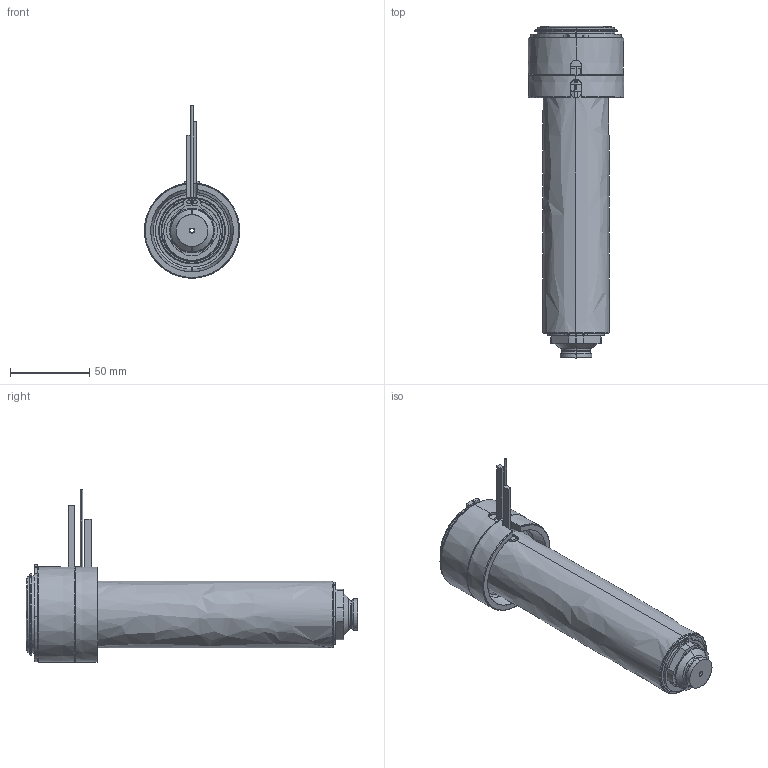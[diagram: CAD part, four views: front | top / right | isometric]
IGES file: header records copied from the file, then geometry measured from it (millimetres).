
Start section: SolidWorks IGES file using analytic representation for surfaces
Global section: file name: C:\Documents and Settings\ws-20\Desktop\TEM\UGER6607-M-A-1 [Øb-2.9 P-0 ØC-17].IGS; native system: SolidWorks 2012; preprocessor: SolidWorks 2012; author: ws-20; date: 120417.135354; units: millimetre
Bounding box: 60 x 209.25 x 108.65 mm (x, y, z)
Surface area: 109814.3 mm2 (no closed solid volume)
Topology: 0 solids, 0 shells, 164 faces, 3054 edges, 3054 vertices
Faces by surface type: revolution 98, bspline 66
